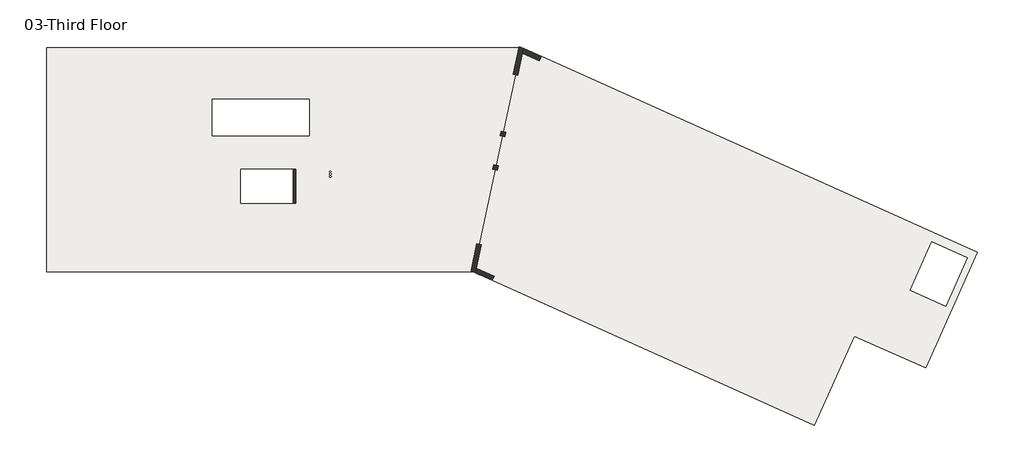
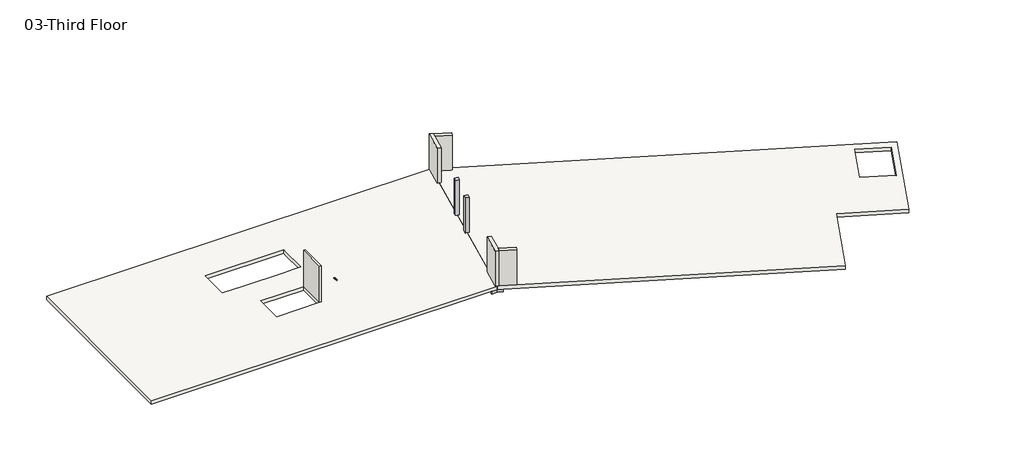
# One storey: 5 walls, 3 beams, 2 columns, 2 slabs.
"""IFC4 building model written with IfcOpenShell, lengths in millimetres."""

from ifc_helpers import new_model, si_unit, frame, origin, place, context, project, spatial, polyline, circle_curve, outline, extrude, faceted_brep, element, save
from ifc_brep_helpers import plane_surface, revolved_surface, advanced_brep

model = new_model("IFC4")

# Units and contexts
model_context = context("Model", 3, world=origin())
ifc_project = project(units=[si_unit("LENGTHUNIT", "METRE", prefix="MILLI")], contexts=[model_context])

# Site, building, storey
site = spatial("IfcSite", under=ifc_project)
building = spatial("IfcBuilding", under=site)
storey = spatial("IfcBuildingStorey", under=building, Name="03-Third Floor", Elevation=10058.4)

# Beams
placement = place(None, origin())
element("IfcBeam", 1, ObjectType="Concrete-Rectangular Beam : 33\" x 18\"", at=placement, inside=storey, context=model_context, shape_type="SweptSolid", body=[
    extrude(outline(polyline([(30288.1466789, -5386.3746605), (29418.8803327, -5200.1033006), (30631.1596114, 457.2), (31098.7387393, 457.2), (31501.5663945, 276.250679), (30288.1466789, -5386.3746605)])), frame((0.0, 0.0, 9525.0), z_axis=(0.0, 0.0, 1.0), x_axis=(1.0, 0.0, 0.0)), (0.0, 0.0, 1.0), 228.6),
])
element("IfcBeam", 2, ObjectType="Concrete-Rectangular Beam : 33\" x 18\"", at=placement, inside=storey, context=model_context, shape_type="SweptSolid", body=[
    extrude(outline(polyline([(28946.1350665, -7406.2478765), (29418.8803327, -5200.1033006), (30288.1466789, -5386.3746605), (29815.4014126, -7592.5192364), (28946.1350665, -7406.2478765)])), frame((0.0, 0.0, 9525.0), z_axis=(0.0, 0.0, 1.0), x_axis=(1.0, 0.0, 0.0)), (0.0, 0.0, 1.0), 228.6),
])
element("IfcBeam", 3, ObjectType="Concrete-Rectangular Beam : 33\" x 18\"", at=placement, inside=storey, context=model_context, shape_type="SweptSolid", body=[
    extrude(outline(polyline([(28946.1350665, -7406.2478765), (29815.4014126, -7592.5192364), (28306.6092516, -14633.549321), (27903.7815965, -14452.6), (27436.2024686, -14452.6), (28946.1350665, -7406.2478765)])), frame((0.0, 0.0, 9525.0), z_axis=(0.0, 0.0, 1.0), x_axis=(1.0, 0.0, 0.0)), (0.0, 0.0, 1.0), 228.6),
])

# Columns
element("IfcColumn", 4, ObjectType="Concrete-Rectangular-Column : 12 x 12", at=placement, inside=storey, context=model_context, shape_type="SweptSolid", body=[
    extrude(outline(polyline([(29275.3181702, -7324.750679), (29573.3523461, -7388.6151452), (29509.4878798, -7686.649321), (29211.453704, -7622.7848548), (29275.3181702, -7324.750679)])), frame((0.0, 0.0, 10058.4), z_axis=(0.0, 0.0, 1.0), x_axis=(1.0, 0.0, 0.0)), (0.0, 0.0, 1.0), 3048.0),
])
element("IfcColumn", 5, ObjectType="Concrete-Rectangular-Column : 12 x 12", at=placement, inside=storey, context=model_context, shape_type="SweptSolid", body=[
    extrude(outline(polyline([(29748.8467417, -5114.950679), (30046.8809175, -5178.8151452), (29983.0164512, -5476.849321), (29684.9822754, -5412.9848548), (29748.8467417, -5114.950679)])), frame((0.0, 0.0, 10058.4), z_axis=(0.0, 0.0, 1.0), x_axis=(1.0, 0.0, 0.0)), (0.0, 0.0, 1.0), 3048.0),
])

# Slabs
element("IfcSlab", 6, ObjectType="RC Slab 12\"", at=placement, inside=storey, context=model_context, shape_type="AdvancedBrep", body=[
    advanced_brep(
    [(-457.2, 457.2, 9753.6), (30631.1596114, 457.2, 9753.6), (31098.7387393, 457.2, 9753.6), (27903.7815965, -14452.6, 9753.6), (27436.2024686, -14452.6, 9753.6), (-457.2, -14452.6, 9753.6), (17005.3, -2984.5, 9753.6), (10553.7, -2984.5, 9753.6), (10553.7, -5422.9, 9753.6), (10858.5, -5422.9, 9753.6), (17005.3, -5422.9, 9753.6), (17005.3, -5168.9, 9753.6), (17005.3, -3289.3, 9753.6), (15951.2, -7633.3081651, 9753.6), (12446.0, -7633.3081651, 9753.6), (12446.0, -9893.3, 9753.6), (15951.2, -9893.3, 9753.6), (18347.8020543, -8109.4381113, 9753.6), (18449.4020543, -8109.4381113, 9753.6), (18347.8020543, -7957.0381113, 9753.6), (18449.4020543, -7957.0381113, 9753.6), (18347.8020543, -7804.6381113, 9753.6), (18449.4020543, -7804.6381113, 9753.6), (31098.7387393, 457.2, 10058.4), (-457.2, 457.2, 10058.4), (-457.2, -14452.6, 10058.4), (27903.7815965, -14452.6, 10058.4), (10553.7, -2984.5, 10058.4), (17005.3, -2984.5, 10058.4), (17005.3, -3289.3, 10058.4), (17005.3, -5168.9, 10058.4), (17005.3, -5422.9, 10058.4), (16522.7, -5422.9, 10058.4), (15608.3, -5422.9, 10058.4), (14389.1, -5422.9, 10058.4), (13474.7, -5422.9, 10058.4), (12242.8, -5422.9, 10058.4), (11328.4, -5422.9, 10058.4), (10553.7, -5422.9, 10058.4), (12446.0, -7633.3081651, 10058.4), (15951.2, -7633.3081651, 10058.4), (15951.2, -9893.3, 10058.4), (12446.0, -9893.3, 10058.4), (18449.4020543, -8109.4381113, 10058.4), (18347.8020543, -8109.4381113, 10058.4), (18449.4020543, -7957.0381113, 10058.4), (18347.8020543, -7957.0381113, 10058.4), (18449.4020543, -7804.6381113, 10058.4), (18347.8020543, -7804.6381113, 10058.4)],
    [
        (0, 1),
        (1, 2),
        (2, 3),
        (3, 4),
        (4, 5),
        (5, 0),
        (6, 7),
        (7, 8),
        (8, 9),
        (9, 10),
        (10, 11),
        (11, 12),
        (12, 6),
        (13, 14),
        (14, 15),
        (15, 16),
        (16, 13),
        (17, 18, circle_curve(frame((18398.6020543, -8109.4381113, 9753.6), z_axis=(0.0, 0.0, 1.0), x_axis=(1.0, 0.0, 0.0)), 50.8)),
        (18, 17, circle_curve(frame((18398.6020543, -8109.4381113, 9753.6), z_axis=(0.0, 0.0, 1.0), x_axis=(1.0, 0.0, 0.0)), 50.8)),
        (19, 20, circle_curve(frame((18398.6020543, -7957.0381113, 9753.6), z_axis=(0.0, 0.0, 1.0), x_axis=(1.0, 0.0, 0.0)), 50.8)),
        (20, 19, circle_curve(frame((18398.6020543, -7957.0381113, 9753.6), z_axis=(0.0, 0.0, 1.0), x_axis=(1.0, 0.0, 0.0)), 50.8)),
        (21, 22, circle_curve(frame((18398.6020543, -7804.6381113, 9753.6), z_axis=(0.0, 0.0, 1.0), x_axis=(1.0, 0.0, 0.0)), 50.8)),
        (22, 21, circle_curve(frame((18398.6020543, -7804.6381113, 9753.6), z_axis=(0.0, 0.0, 1.0), x_axis=(1.0, 0.0, 0.0)), 50.8)),
        (23, 24),
        (24, 25),
        (25, 26),
        (26, 23),
        (27, 28),
        (28, 29),
        (29, 30),
        (30, 31),
        (31, 32),
        (32, 33),
        (33, 34),
        (34, 35),
        (35, 36),
        (36, 37),
        (37, 38),
        (38, 27),
        (39, 40),
        (40, 41),
        (41, 42),
        (42, 39),
        (43, 44, circle_curve(frame((18398.6020543, -8109.4381113, 10058.4), z_axis=(0.0, 0.0, -1.0), x_axis=(1.0, 0.0, 0.0)), 50.8)),
        (44, 43, circle_curve(frame((18398.6020543, -8109.4381113, 10058.4), z_axis=(0.0, 0.0, -1.0), x_axis=(1.0, 0.0, 0.0)), 50.8)),
        (45, 46, circle_curve(frame((18398.6020543, -7957.0381113, 10058.4), z_axis=(0.0, 0.0, -1.0), x_axis=(1.0, 0.0, 0.0)), 50.8)),
        (46, 45, circle_curve(frame((18398.6020543, -7957.0381113, 10058.4), z_axis=(0.0, 0.0, -1.0), x_axis=(1.0, 0.0, 0.0)), 50.8)),
        (47, 48, circle_curve(frame((18398.6020543, -7804.6381113, 10058.4), z_axis=(0.0, 0.0, -1.0), x_axis=(1.0, 0.0, 0.0)), 50.8)),
        (48, 47, circle_curve(frame((18398.6020543, -7804.6381113, 10058.4), z_axis=(0.0, 0.0, -1.0), x_axis=(1.0, 0.0, 0.0)), 50.8)),
        (0, 24),
        (23, 2),
        (26, 3),
        (25, 5),
        (6, 28),
        (27, 7),
        (38, 8),
        (31, 10),
        (13, 40),
        (39, 14),
        (42, 15),
        (41, 16),
        (17, 44),
        (43, 18),
        (19, 46),
        (45, 20),
        (21, 48),
        (47, 22),
    ],
    [
        plane_surface(frame((0.0, 457.2, 9753.6), z_axis=(0.0, 0.0, -1.0), x_axis=(1.0, 0.0, 0.0))),
        plane_surface(frame((0.0, 457.2, 10058.4), z_axis=(0.0, 0.0, 1.0), x_axis=(-1.0, 0.0, 0.0))),
        plane_surface(frame((-457.2, 457.2, 9753.6), z_axis=(0.0, 1.0, 0.0), x_axis=(0.0, 0.0, 1.0))),
        plane_surface(frame((31098.7387393, 457.2, 9753.6), z_axis=(0.9778024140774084, -0.2095290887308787, 0.0), x_axis=(0.0, 0.0, 1.0))),
        plane_surface(frame((27903.7815965, -14452.6, 9753.6), z_axis=(0.0, -1.0, 0.0), x_axis=(0.0, 0.0, 1.0))),
        plane_surface(frame((-457.2, -14452.6, 9753.6), z_axis=(-1.0, 0.0, 0.0), x_axis=(0.0, 0.0, 1.0))),
        plane_surface(frame((17005.3, -2984.5, 17068.8), z_axis=(0.0, -1.0, 0.0), x_axis=(0.0, 0.0, -1.0))),
        plane_surface(frame((10553.7, -2984.5, 17068.8), z_axis=(1.0, 0.0, 0.0), x_axis=(0.0, 0.0, -1.0))),
        plane_surface(frame((10553.7, -5422.9, 17068.8), z_axis=(0.0, 1.0, 0.0), x_axis=(0.0, 0.0, -1.0))),
        plane_surface(frame((17005.3, -5422.9, 17068.8), z_axis=(-1.0, 0.0, 0.0), x_axis=(0.0, 0.0, -1.0))),
        plane_surface(frame((15951.2, -7633.3081651, 17068.8), z_axis=(0.0, -1.0, 0.0), x_axis=(0.0, 0.0, -1.0))),
        plane_surface(frame((12446.0, -7633.3081651, 17068.8), z_axis=(1.0, 0.0, 0.0), x_axis=(0.0, 0.0, -1.0))),
        plane_surface(frame((12446.0, -9893.3, 17068.8), z_axis=(0.0, 1.0, 0.0), x_axis=(0.0, 0.0, -1.0))),
        plane_surface(frame((15951.2, -9893.3, 17068.8), z_axis=(-1.0, 0.0, 0.0), x_axis=(0.0, 0.0, -1.0))),
        revolved_surface(polyline([(18449.4020543, -8109.4381113, 10058.4), (18449.4020543, -8109.4381113, 9753.6)]), (18398.6020543, -8109.4381113, 9448.8), (0.0, 0.0, 1.0)),
        revolved_surface(polyline([(18449.4020543, -7957.0381113, 10058.4), (18449.4020543, -7957.0381113, 9753.6)]), (18398.6020543, -7957.0381113, 9448.8), (0.0, 0.0, 1.0)),
        revolved_surface(polyline([(18449.4020543, -7804.6381113, 10058.4), (18449.4020543, -7804.6381113, 9753.6)]), (18398.6020543, -7804.6381113, 9448.8), (0.0, 0.0, 1.0)),
    ],
    [
        (0, [[1, 2, 3, 4, 5, 6], [7, 8, 9, 10, 11, 12, 13], [14, 15, 16, 17], [18, 19], [20, 21], [22, 23]]),
        (1, [[24, 25, 26, 27], [28, 29, 30, 31, 32, 33, 34, 35, 36, 37, 38, 39], [40, 41, 42, 43], [44, 45], [46, 47], [48, 49]]),
        (2, [[-2, -1, 50, -24, 51]]),
        (3, [[-3, -51, -27, 52]]),
        (4, [[-5, -4, -52, -26, 53]]),
        (5, [[-6, -53, -25, -50]]),
        (6, [[54, -28, 55, -7]]),
        (7, [[-55, -39, 56, -8]]),
        (8, [[-56, -38, -37, -36, -35, -34, -33, -32, 57, -10, -9]]),
        (9, [[-54, -13, -12, -11, -57, -31, -30, -29]]),
        (10, [[58, -40, 59, -14]]),
        (11, [[-59, -43, 60, -15]]),
        (12, [[-60, -42, 61, -16]]),
        (13, [[-58, -17, -61, -41]]),
        (14, [[62, -44, 63, -18]]),
        (14, [[-62, -19, -63, -45]]),
        (15, [[64, -46, 65, -20]]),
        (15, [[-64, -21, -65, -47]]),
        (16, [[66, -48, 67, -22]]),
        (16, [[-66, -23, -67, -49]]),
    ],
),
])
element("IfcSlab", 7, ObjectType="RC Slab 12\"", at=placement, inside=storey, context=model_context, shape_type="Brep", body=[
    faceted_brep([(61413.0546278, -13159.9258537, 9753.6), (57962.8673107, -20840.7, 9753.6), (53236.2370668, -18717.5078049, 9753.6), (50577.0429205, -24637.3804878, 9753.6), (28306.6092516, -14633.549321, 9753.6), (27903.7815965, -14452.6, 9753.6), (31098.7387393, 457.2, 9753.6), (31501.5663945, 276.250679, 9753.6), (59309.9346278, -16726.0858537, 9753.6), (60746.211701, -13528.6595122, 9753.6), (58382.896579, -12467.0634146, 9753.6), (56946.6195059, -15664.4897561, 9753.6), (57962.8673107, -20840.7, 10058.4), (61413.0546278, -13159.9258537, 10058.4), (32422.724802, -137.5317073, 10058.4), (31240.9132058, 393.3355338, 10058.4), (31098.7387393, 457.2, 10058.4), (27903.7815965, -14452.6, 10058.4), (28045.956063, -14516.4644662, 10058.4), (29168.1882864, -15020.5687805, 10058.4), (50577.0429205, -24637.3804878, 10058.4), (53236.2370668, -18717.5078049, 10058.4), (60746.211701, -13528.6595122, 10058.4), (59309.9346278, -16726.0858537, 10058.4), (56946.6195059, -15664.4897561, 10058.4), (58382.896579, -12467.0634146, 10058.4)], [[[0, 1, 2, 3, 4, 5, 6, 7], [8, 9, 10, 11]], [[12, 13, 14, 15, 16, 17, 18, 19, 20, 21], [22, 23, 24, 25]], [[1, 0, 13, 12]], [[2, 1, 12, 21]], [[3, 2, 21, 20]], [[5, 4, 3, 20, 19, 18, 17]], [[6, 5, 17, 16]], [[0, 7, 6, 16, 15, 14, 13]], [[8, 23, 22, 9]], [[9, 22, 25, 10]], [[10, 25, 24, 11]], [[23, 8, 11, 24]]]),
])

# Walls
element("IfcWall", 8, ObjectType="6\" Blockwork with render", at=placement, inside=storey, context=model_context, shape_type="SweptSolid", body=[
    extrude(outline(polyline([(16103.6, -7632.7), (16103.6, -9893.3), (15951.2, -9893.3), (15951.2, -7632.7), (16103.6, -7632.7)])), frame((0.0, 0.0, 10058.4), z_axis=(0.0, 0.0, 1.0), x_axis=(1.0, 0.0, 0.0)), (0.0, 0.0, 1.0), 3149.6),
])
element("IfcWall", 9, ObjectType="RC Wall 12\"", at=placement, inside=storey, context=model_context, shape_type="Brep", body=[
    faceted_brep([(30956.5642728, 521.0644662, 10058.4), (30564.3601247, -1309.221558, 10058.4), (30564.3601247, -1309.221558, 13106.4), (30956.5642728, 521.0644662, 13106.4), (30862.3943005, -1373.0860243, 10058.4), (31175.5989201, 88.5355338, 10058.4), (31240.9132058, 393.3355338, 10058.4), (31240.9132058, 393.3355338, 13106.4), (31175.5989201, 88.5355338, 13106.4), (30862.3943005, -1373.0860243, 13106.4), (31098.7387393, 457.2, 10058.4)], [[[0, 1, 2, 3]], [[4, 5, 6, 7, 8, 9]], [[1, 0, 10, 6, 5, 4]], [[1, 4, 9, 2]], [[6, 10, 0, 3, 7]], [[3, 2, 9, 8, 7]]]),
])
element("IfcWall", 10, ObjectType="RC Wall 12\"", at=placement, inside=storey, context=model_context, shape_type="SweptSolid", body=[
    extrude(outline(polyline([(32297.8311435, -415.5687805), (31175.5989201, 88.5355338), (31240.9132058, 393.3355338), (32422.724802, -137.5317073), (32297.8311435, -415.5687805)])), frame((0.0, 0.0, 10058.4), z_axis=(0.0, 0.0, 1.0), x_axis=(1.0, 0.0, 0.0)), (0.0, 0.0, 1.0), 3048.0),
])
element("IfcWall", 11, ObjectType="RC Wall 12\"", at=placement, inside=storey, context=model_context, shape_type="Brep", body=[
    faceted_brep([(28150.0697886, -12575.9097931, 10058.4), (27761.6071299, -14388.7355338, 10058.4), (27761.6071299, -14388.7355338, 13106.4), (28150.0697886, -12575.9097931, 13106.4), (28045.956063, -14516.4644662, 10058.4), (28111.2703487, -14211.6644662, 10058.4), (28448.1039645, -12639.7742594, 10058.4), (28448.1039645, -12639.7742594, 13106.4), (28111.2703487, -14211.6644662, 13106.4), (28045.956063, -14516.4644662, 13106.4), (27903.7815965, -14452.6, 10058.4)], [[[0, 1, 2, 3]], [[4, 5, 6, 7, 8, 9]], [[1, 0, 6, 5, 4, 10]], [[6, 0, 3, 7]], [[1, 10, 4, 9, 2]], [[3, 2, 9, 8, 7]]]),
])
element("IfcWall", 12, ObjectType="RC Wall 12\"", at=placement, inside=storey, context=model_context, shape_type="SweptSolid", body=[
    extrude(outline(polyline([(29168.1882864, -15020.5687805), (28045.956063, -14516.4644662), (28111.2703487, -14211.6644662), (29293.0819449, -14742.5317073), (29168.1882864, -15020.5687805)])), frame((0.0, 0.0, 10058.4), z_axis=(0.0, 0.0, 1.0), x_axis=(1.0, 0.0, 0.0)), (0.0, 0.0, 1.0), 3048.0),
])

save(model, "model.ifc")
